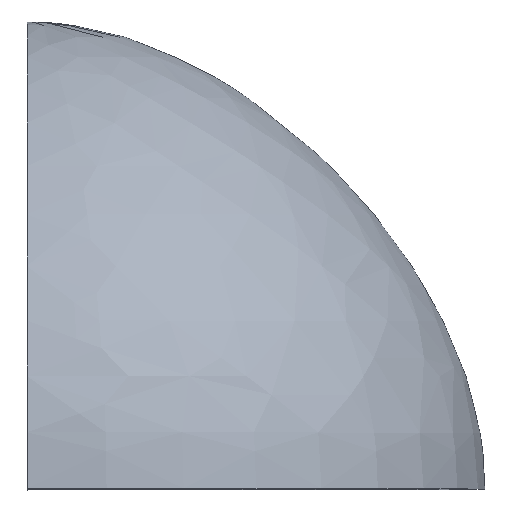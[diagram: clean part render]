
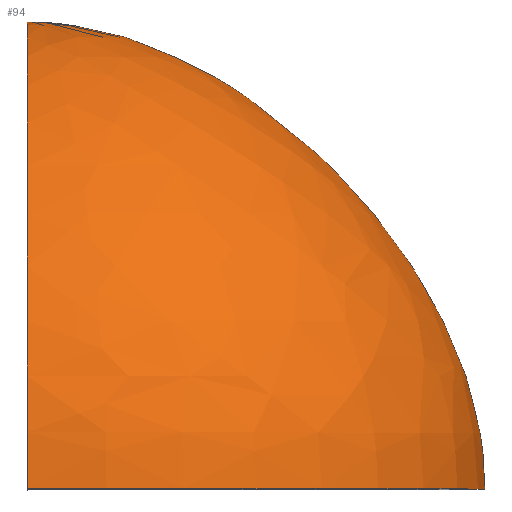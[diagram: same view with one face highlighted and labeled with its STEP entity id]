
A CAD part, top view. The second image highlights one B-rep face of the part: STEP entity #94.
In plain terms, the highlighted face is a revolution surface.
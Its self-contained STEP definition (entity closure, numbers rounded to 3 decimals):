
#52=CARTESIAN_POINT('Control Point',(0.,0.,99.)) ;
#53=CARTESIAN_POINT('Control Point',(0.,28.286,99.)) ;
#54=CARTESIAN_POINT('Control Point',(0.,57.071,84.857)) ;
#55=CARTESIAN_POINT('Control Point',(0.,86.357,56.571)) ;
#56=CARTESIAN_POINT('Control Point',(0.,101.,28.286)) ;
#57=CARTESIAN_POINT('Control Point',(0.,101.,0.)) ;
#58=CARTESIAN_POINT('Axis1P Location',(0.,0.,0.)) ;
#63=CARTESIAN_POINT('Control Point',(0.,0.,-99.)) ;
#64=CARTESIAN_POINT('Control Point',(0.,28.286,-99.)) ;
#65=CARTESIAN_POINT('Control Point',(0.,57.071,-84.857)) ;
#66=CARTESIAN_POINT('Control Point',(0.,86.357,-56.571)) ;
#67=CARTESIAN_POINT('Control Point',(0.,101.,-28.286)) ;
#68=CARTESIAN_POINT('Control Point',(0.,101.,0.)) ;
#69=CARTESIAN_POINT('Vertex',(0.,0.,-99.)) ;
#71=CARTESIAN_POINT('Vertex',(0.,101.,0.)) ;
#75=CARTESIAN_POINT('Control Point',(0.,0.,99.)) ;
#76=CARTESIAN_POINT('Control Point',(0.,28.286,99.)) ;
#77=CARTESIAN_POINT('Control Point',(0.,57.071,84.857)) ;
#78=CARTESIAN_POINT('Control Point',(0.,86.357,56.571)) ;
#79=CARTESIAN_POINT('Control Point',(0.,101.,28.286)) ;
#80=CARTESIAN_POINT('Control Point',(0.,101.,0.)) ;
#81=CARTESIAN_POINT('Vertex',(0.,0.,99.)) ;
#84=CARTESIAN_POINT('Axis2P3D Location',(0.,0.,0.)) ;
#59=DIRECTION('Axis1P Direction',(0.,1.,0.)) ;
#85=DIRECTION('Axis2P3D Direction',(0.,1.,0.)) ;
#86=AXIS2_PLACEMENT_3D('Circle Axis2P3D',#84,#85,$) ;
#90=ORIENTED_EDGE('',*,*,#73,.T.) ;
#91=ORIENTED_EDGE('',*,*,#83,.F.) ;
#92=ORIENTED_EDGE('',*,*,#88,.T.) ;
#94=ADVANCED_FACE('PartBody',(#93),#61,.T.) ;
#60=AXIS1_PLACEMENT('Revolution Surface Axis1P',#58,#59) ;
#51=B_SPLINE_CURVE_WITH_KNOTS('',5,(#52,#53,#54,#55,#56,#57),.UNSPECIFIED.,.F.,.U.,(6,6),(0.,141.428),.UNSPECIFIED.) ;
#62=B_SPLINE_CURVE_WITH_KNOTS('',5,(#63,#64,#65,#66,#67,#68),.UNSPECIFIED.,.F.,.U.,(6,6),(0.,141.428),.UNSPECIFIED.) ;
#74=B_SPLINE_CURVE_WITH_KNOTS('',5,(#75,#76,#77,#78,#79,#80),.UNSPECIFIED.,.F.,.U.,(6,6),(0.,141.428),.UNSPECIFIED.) ;
#87=CIRCLE('generated circle',#86,99.) ;
#73=EDGE_CURVE('',#70,#72,#62,.T.) ;
#83=EDGE_CURVE('',#82,#72,#74,.T.) ;
#88=EDGE_CURVE('',#82,#70,#87,.T.) ;
#89=EDGE_LOOP('',(#90,#91,#92)) ;
#93=FACE_OUTER_BOUND('',#89,.T.) ;
#61=SURFACE_OF_REVOLUTION('Surface of Revolution',#51,#60) ;
#70=VERTEX_POINT('',#69) ;
#72=VERTEX_POINT('',#71) ;
#82=VERTEX_POINT('',#81) ;
